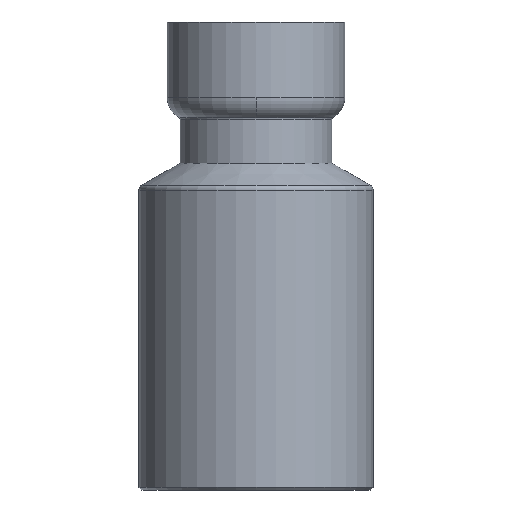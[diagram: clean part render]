
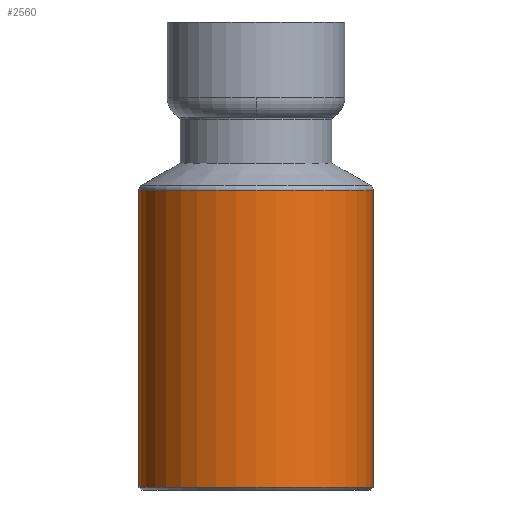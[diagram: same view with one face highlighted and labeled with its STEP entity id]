
A CAD part, left-side view. The second image highlights one B-rep face of the part: STEP entity #2560.
In plain terms, the highlighted cylindrical face has radius 21.15 mm (diameter 42.3 mm), a partial arc.
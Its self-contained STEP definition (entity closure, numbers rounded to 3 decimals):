
#2020=CARTESIAN_POINT('',(10.127,25.607,
0.));
#2030=VERTEX_POINT('',#2020);
#2060=CARTESIAN_POINT('',(10.127,46.757,
0.));
#2070=DIRECTION('',(1.,0.,0.));
#2080=DIRECTION('',(0.,1.,0.));
#2090=AXIS2_PLACEMENT_3D('',#2060,#2070,#2080);
#2100=CIRCLE('',#2090,21.15);
#2110=CARTESIAN_POINT('',(10.127,67.907,
0.));
#2120=VERTEX_POINT('',#2110);
#2130=EDGE_CURVE('',#2030,#2120,#2100,.T.);
#2250=CARTESIAN_POINT('',(48.004,46.757,
0.));
#2260=DIRECTION('',(1.,0.,0.));
#2270=DIRECTION('',(0.,1.,0.));
#2280=AXIS2_PLACEMENT_3D('',#2250,#2260,#2270);
#2290=CYLINDRICAL_SURFACE('',#2280,21.15);
#2300=CARTESIAN_POINT('',(48.004,67.907,
0.));
#2310=DIRECTION('',(1.,0.,0.));
#2320=VECTOR('',#2310,1.);
#2330=LINE('',#2300,#2320);
#2340=CARTESIAN_POINT('',(63.772,67.907,
0.));
#2350=VERTEX_POINT('',#2340);
#2360=EDGE_CURVE('',#2120,#2350,#2330,.T.);
#2370=ORIENTED_EDGE('',*,*,#2360,.T.);
#2380=ORIENTED_EDGE('',*,*,#2130,.T.);
#2390=CARTESIAN_POINT('',(48.004,25.607,
0.));
#2400=DIRECTION('',(1.,0.,0.));
#2410=VECTOR('',#2400,1.);
#2420=LINE('',#2390,#2410);
#2430=CARTESIAN_POINT('',(63.772,25.607,
0.));
#2440=VERTEX_POINT('',#2430);
#2450=EDGE_CURVE('',#2030,#2440,#2420,.T.);
#2460=ORIENTED_EDGE('',*,*,#2450,.F.);
#2470=CARTESIAN_POINT('',(63.772,46.757,
0.));
#2480=DIRECTION('',(-1.,-0.,0.));
#2490=DIRECTION('',(0.,1.,0.));
#2500=AXIS2_PLACEMENT_3D('',#2470,#2480,#2490);
#2510=CIRCLE('',#2500,21.15);
#2520=EDGE_CURVE('',#2350,#2440,#2510,.T.);
#2530=ORIENTED_EDGE('',*,*,#2520,.T.);
#2540=EDGE_LOOP('',(#2530,#2460,#2380,#2370));
#2550=FACE_OUTER_BOUND('',#2540,.T.);
#2560=ADVANCED_FACE('',(#2550),#2290,.T.);
